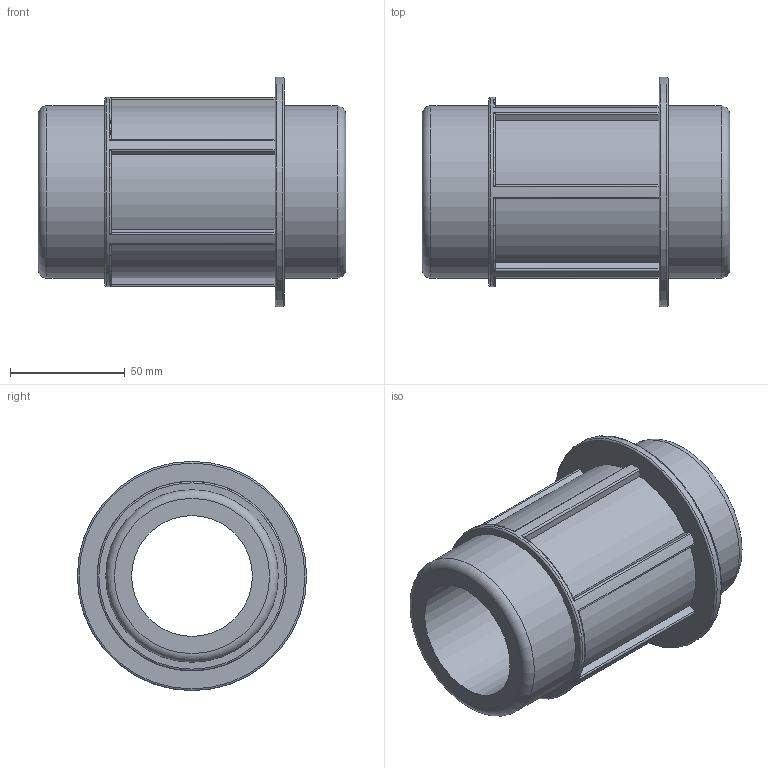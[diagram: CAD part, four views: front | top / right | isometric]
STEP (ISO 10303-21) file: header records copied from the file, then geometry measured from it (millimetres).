
FILE_DESCRIPTION(/* description */ ('PLASSON THREADED MALE ADAPTOR 75-2.1/2"'),/* implementation_level */ '2;1');
FILE_NAME(/* name */ 'C:\Dropbox\KIMPROJECTS-Inventor\99-16-3568-Processing\Silver+MF ISRAEL\078901\078901075025.ipt.stp',/* time_stamp */ '2018-04-09T13:02:10+03:00',/* author */ ('KIM'),/* organization */ (''),/* preprocessor_version */ 'ST-DEVELOPER v15.6',/* originating_system */ 'Autodesk Inventor 2015',/* authorisation */ '');
FILE_SCHEMA (('AUTOMOTIVE_DESIGN { 1 0 10303 214 3 1 1 }'));
Length unit declared in the file: millimetre
Products named in the file (1): 078901075025
Bounding box: 134 x 100 x 100 mm (x, y, z)
Volume: 327304.1 mm3; surface area: 68978.1 mm2
Topology: 1 solids, 1 shells, 57 faces, 151 edges, 99 vertices
Faces by surface type: cylinder 23, plane 23, torus 11
Full cylindrical faces by diameter (mm): 52.629 x1, 75 x1, 75.184 x1, 82.702 x1, 100 x1
Entity records: 1894 total; most frequent: CARTESIAN_POINT 488, DIRECTION 288, ORIENTED_EDGE 280, EDGE_CURVE 140, AXIS2_PLACEMENT_3D 114, VERTEX_POINT 98, EDGE_LOOP 72, LINE 60
